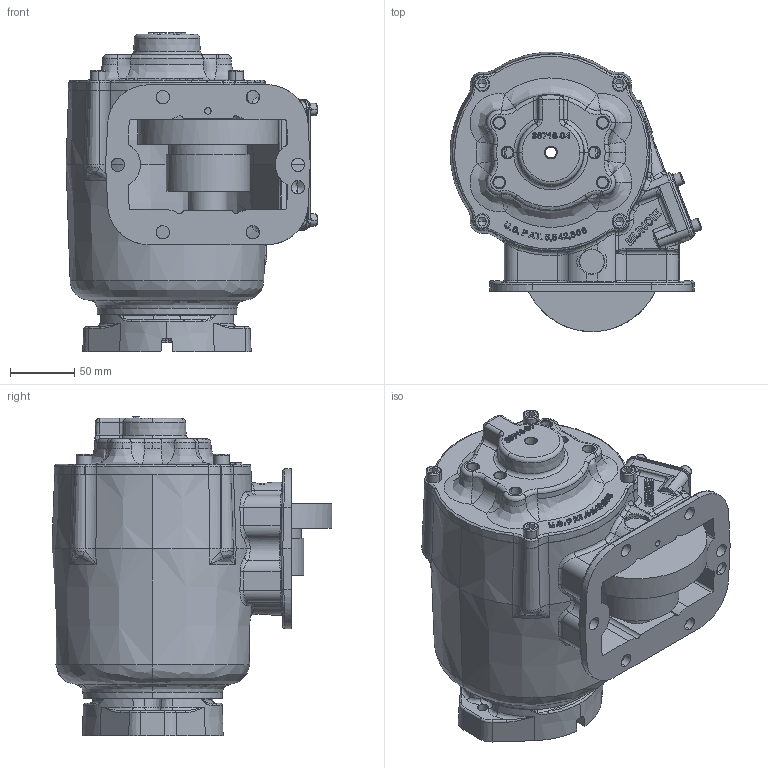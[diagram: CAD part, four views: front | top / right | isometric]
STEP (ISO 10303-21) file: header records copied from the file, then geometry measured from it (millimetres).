
FILE_DESCRIPTION (( 'STEP AP203' ), '1' );
FILE_NAME ('CS6S-A67XX-H1TX.STEP', '2023-04-26T14:44:45', ( '' ), ( '' ), 'SwSTEP 2.0', 'SolidWorks 2021', '' );
FILE_SCHEMA (( 'CONFIG_CONTROL_DESIGN' ));
Length unit declared in the file: inch
Products named in the file (6): CS6S-A67XX-H1TX; CS6S-XXXXX-X1XX; 14T39141; 14TA3997; 10T21017; 11T37790
Assembly tree (5 placements, depth 3):
  CS6S-A67XX-H1TX
    CS6S-XXXXX-X1XX
    10T21017
    14TA3997
      14T39141
      11T37790
Bounding box: 195.33 x 216.75 x 247.66 mm (x, y, z)
Volume: 1590584.7 mm3; surface area: 404324.4 mm2
Topology: 13 solids, 13 shells, 2251 faces, 5886 edges, 3686 vertices
Faces by surface type: bspline 861, plane 527, cylinder 443, cone 233, torus 167, sphere 20
Entity records: 156754 total; most frequent: CARTESIAN_POINT 109146, ORIENTED_EDGE 11556, DIRECTION 6589, EDGE_CURVE 5778, VERTEX_POINT 3659, B_SPLINE_CURVE_WITH_KNOTS 2835, EDGE_LOOP 2453, AXIS2_PLACEMENT_3D 2280
